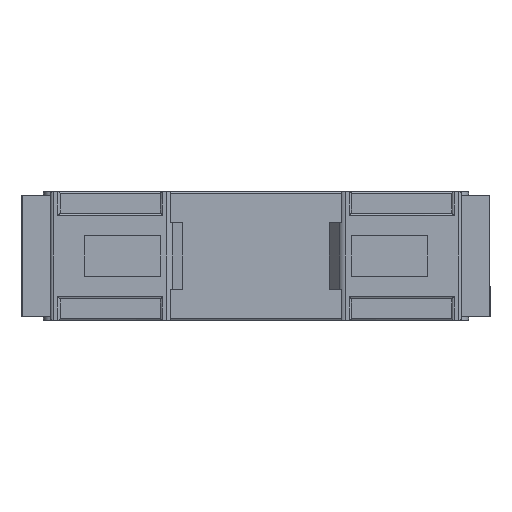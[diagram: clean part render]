
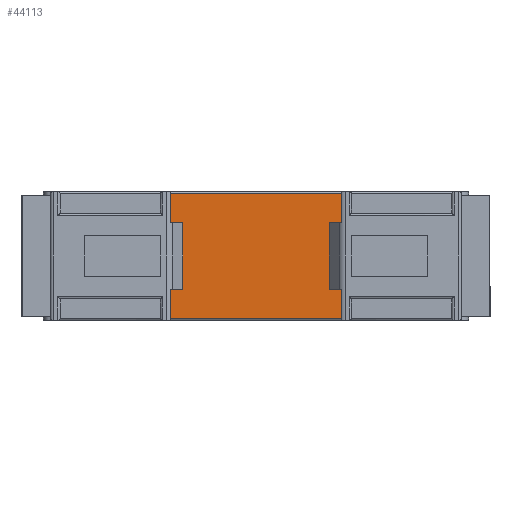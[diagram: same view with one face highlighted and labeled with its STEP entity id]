
A CAD part, left-side view. The second image highlights one B-rep face of the part: STEP entity #44113.
In plain terms, the highlighted planar face has unit normal (-1, 0, 0).
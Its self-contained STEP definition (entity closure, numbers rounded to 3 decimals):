
#44074=CARTESIAN_POINT('',(7.62,27.743,0.0));
#44075=DIRECTION('',(-1.0,0.0,0.0));
#44076=DIRECTION('',(0.0,0.0,1.0));
#44077=AXIS2_PLACEMENT_3D('',#44074,#44075,#44076);
#44078=PLANE('',#44077);
#44079=CARTESIAN_POINT('',(7.62,27.743,-13.0));
#44080=VERTEX_POINT('',#44079);
#44081=CARTESIAN_POINT('',(7.62,63.743,-13.0));
#44082=VERTEX_POINT('',#44081);
#44083=CARTESIAN_POINT('',(7.62,27.743,-13.0));
#44084=DIRECTION('',(0.0,1.0,0.0));
#44085=VECTOR('',#44084,36.);
#44086=LINE('',#44083,#44085);
#44087=EDGE_CURVE('',#44080,#44082,#44086,.T.);
#44088=ORIENTED_EDGE('',*,*,#44087,.F.);
#44089=CARTESIAN_POINT('',(7.62,27.743,13.0));
#44090=VERTEX_POINT('',#44089);
#44091=CARTESIAN_POINT('',(7.62,27.743,13.0));
#44092=DIRECTION('',(0.0,0.0,-1.0));
#44093=VECTOR('',#44092,26.0);
#44094=LINE('',#44091,#44093);
#44095=EDGE_CURVE('',#44090,#44080,#44094,.T.);
#44096=ORIENTED_EDGE('',*,*,#44095,.F.);
#44097=CARTESIAN_POINT('',(7.62,63.743,13.0));
#44098=VERTEX_POINT('',#44097);
#44099=CARTESIAN_POINT('',(7.62,63.743,13.0));
#44100=DIRECTION('',(0.0,-1.0,0.0));
#44101=VECTOR('',#44100,36.0);
#44102=LINE('',#44099,#44101);
#44103=EDGE_CURVE('',#44098,#44090,#44102,.T.);
#44104=ORIENTED_EDGE('',*,*,#44103,.F.);
#44105=CARTESIAN_POINT('',(7.62,63.743,13.0));
#44106=DIRECTION('',(0.0,0.0,-1.0));
#44107=VECTOR('',#44106,26.0);
#44108=LINE('',#44105,#44107);
#44109=EDGE_CURVE('',#44098,#44082,#44108,.T.);
#44110=ORIENTED_EDGE('',*,*,#44109,.T.);
#44111=EDGE_LOOP('',(#44088,#44096,#44104,#44110));
#44112=FACE_OUTER_BOUND('',#44111,.T.);
#44113=ADVANCED_FACE('',(#44112),#44078,.T.);
